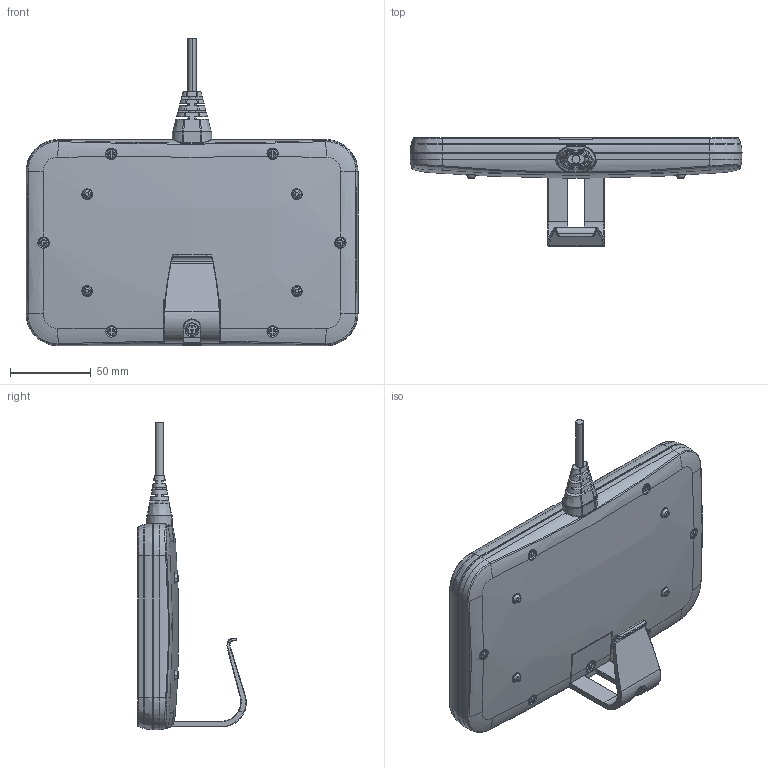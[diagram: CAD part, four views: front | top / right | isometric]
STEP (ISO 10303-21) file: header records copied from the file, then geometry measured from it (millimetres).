
FILE_DESCRIPTION((''),'2;1');
FILE_NAME('ATTENDANT-ASM-2015-06-30_ASM_37_ASM','2021-01-27T',('USER'),(''),'PRO/ENGINEER BY PARAMETRIC TECHNOLOGY CORPORATION, 2016240','PRO/ENGINEER BY PARAMETRIC TECHNOLOGY CORPORATION, 2016240','');
FILE_SCHEMA(('CONFIG_CONTROL_DESIGN'));
Length unit declared in the file: millimetre
Products named in the file (8): ATTENDANT_CONTROL-6001_50_18; ATTENDANT_CONTROL-6006_10_7; ATTENDANT_CONTROL-6003_50_9; 3X8_3_1; 4X10_3_1; LINE___2; XINCP1GUAGOU_2; ATTENDANT-ASM-2015-06-30_ASM_37_ASM
Assembly tree (12 placements, depth 2):
  ATTENDANT-ASM-2015-06-30_ASM_37_ASM
    ATTENDANT_CONTROL-6001_50_18
    ATTENDANT_CONTROL-6006_10_7
    ATTENDANT_CONTROL-6003_50_9
    3X8_3_1  x6
    4X10_3_1
    LINE___2
    XINCP1GUAGOU_2
Bounding box: 206 x 67.41 x 190.87 mm (x, y, z)
Volume: 191290.1 mm3; surface area: 226452.6 mm2
Topology: 12 solids, 12 shells, 1624 faces, 4191 edges, 2719 vertices
Faces by surface type: plane 632, cylinder 566, bspline 242, torus 104, cone 68, sphere 8, extrusion 4
Entity records: 60030 total; most frequent: CARTESIAN_POINT 24875, ORIENTED_EDGE 7610, DIRECTION 6830, EDGE_CURVE 3805, AXIS2_PLACEMENT_3D 2622, VERTEX_POINT 2459, EDGE_LOOP 1736, VECTOR 1586
